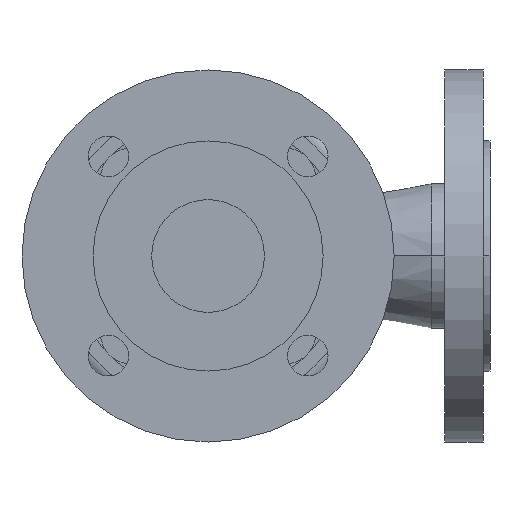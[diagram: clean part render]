
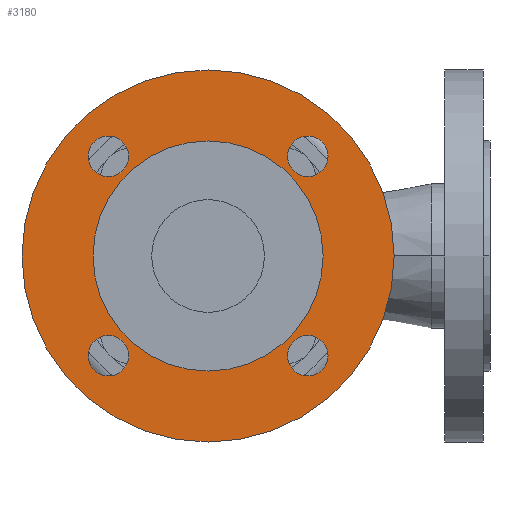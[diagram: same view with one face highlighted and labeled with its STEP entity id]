
A CAD part, front view. The second image highlights one B-rep face of the part: STEP entity #3180.
In plain terms, the highlighted planar face has unit normal (0, -1, 0).
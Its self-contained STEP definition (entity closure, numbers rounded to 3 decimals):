
#610=CARTESIAN_POINT('',(51.,3.,0.));
#620=VERTEX_POINT('',#610);
#650=CARTESIAN_POINT('',(0.,3.,0.));
#660=DIRECTION('',(0.,-1.,0.));
#670=DIRECTION('',(-1.,0.,0.));
#680=AXIS2_PLACEMENT_3D('',#650,#660,#670);
#690=CIRCLE('',#680,51.);
#700=CARTESIAN_POINT('',(-51.,3.,0.));
#710=VERTEX_POINT('',#700);
#720=EDGE_CURVE('',#710,#620,#690,.T.);
#2330=CARTESIAN_POINT('',(0.,3.,0.));
#2340=DIRECTION('',(0.,1.,0.));
#2350=DIRECTION('',(0.,0.,1.));
#2360=AXIS2_PLACEMENT_3D('',#2330,#2340,#2350);
#2370=PLANE('',#2360);
#2380=CARTESIAN_POINT('',(-44.194,3.,-44.194));
#2390=DIRECTION('',(0.,1.,0.));
#2400=DIRECTION('',(1.,0.,0.));
#2410=AXIS2_PLACEMENT_3D('',#2380,#2390,#2400);
#2420=CIRCLE('',#2410,9.);
#2430=CARTESIAN_POINT('',(-35.194,3.,-44.194));
#2440=VERTEX_POINT('',#2430);
#2450=CARTESIAN_POINT('',(-53.194,3.,-44.194));
#2460=VERTEX_POINT('',#2450);
#2470=EDGE_CURVE('',#2440,#2460,#2420,.T.);
#2480=ORIENTED_EDGE('',*,*,#2470,.T.);
#2490=EDGE_CURVE('',#2460,#2440,#2420,.T.);
#2500=ORIENTED_EDGE('',*,*,#2490,.T.);
#2510=EDGE_LOOP('',(#2500,#2480));
#2520=FACE_BOUND('',#2510,.T.);
#2530=CARTESIAN_POINT('',(-44.194,3.,44.194));
#2540=DIRECTION('',(0.,1.,0.));
#2550=DIRECTION('',(1.,0.,0.));
#2560=AXIS2_PLACEMENT_3D('',#2530,#2540,#2550);
#2570=CIRCLE('',#2560,9.);
#2580=CARTESIAN_POINT('',(-35.194,3.,44.194));
#2590=VERTEX_POINT('',#2580);
#2600=CARTESIAN_POINT('',(-53.194,3.,44.194));
#2610=VERTEX_POINT('',#2600);
#2620=EDGE_CURVE('',#2590,#2610,#2570,.T.);
#2630=ORIENTED_EDGE('',*,*,#2620,.T.);
#2640=EDGE_CURVE('',#2610,#2590,#2570,.T.);
#2650=ORIENTED_EDGE('',*,*,#2640,.T.);
#2660=EDGE_LOOP('',(#2650,#2630));
#2670=FACE_BOUND('',#2660,.T.);
#2680=CARTESIAN_POINT('',(44.194,3.,44.194));
#2690=DIRECTION('',(0.,1.,0.));
#2700=DIRECTION('',(1.,0.,0.));
#2710=AXIS2_PLACEMENT_3D('',#2680,#2690,#2700);
#2720=CIRCLE('',#2710,9.);
#2730=CARTESIAN_POINT('',(35.194,3.,44.194));
#2740=VERTEX_POINT('',#2730);
#2750=CARTESIAN_POINT('',(53.194,3.,44.194));
#2760=VERTEX_POINT('',#2750);
#2770=EDGE_CURVE('',#2740,#2760,#2720,.T.);
#2780=ORIENTED_EDGE('',*,*,#2770,.T.);
#2790=EDGE_CURVE('',#2760,#2740,#2720,.T.);
#2800=ORIENTED_EDGE('',*,*,#2790,.T.);
#2810=EDGE_LOOP('',(#2800,#2780));
#2820=FACE_BOUND('',#2810,.T.);
#2830=CARTESIAN_POINT('',(44.194,3.,-44.194));
#2840=DIRECTION('',(0.,1.,0.));
#2850=DIRECTION('',(1.,0.,0.));
#2860=AXIS2_PLACEMENT_3D('',#2830,#2840,#2850);
#2870=CIRCLE('',#2860,9.);
#2880=CARTESIAN_POINT('',(53.194,3.,-44.194));
#2890=VERTEX_POINT('',#2880);
#2900=CARTESIAN_POINT('',(35.194,3.,-44.194));
#2910=VERTEX_POINT('',#2900);
#2920=EDGE_CURVE('',#2890,#2910,#2870,.T.);
#2930=ORIENTED_EDGE('',*,*,#2920,.T.);
#2940=EDGE_CURVE('',#2910,#2890,#2870,.T.);
#2950=ORIENTED_EDGE('',*,*,#2940,.T.);
#2960=EDGE_LOOP('',(#2950,#2930));
#2970=FACE_BOUND('',#2960,.T.);
#2980=CARTESIAN_POINT('',(0.,3.,0.));
#2990=DIRECTION('',(0.,1.,0.));
#3000=DIRECTION('',(1.,0.,0.));
#3010=AXIS2_PLACEMENT_3D('',#2980,#2990,#3000);
#3020=CIRCLE('',#3010,82.5);
#3030=CARTESIAN_POINT('',(-82.5,3.,0.));
#3040=VERTEX_POINT('',#3030);
#3050=CARTESIAN_POINT('',(82.5,3.,0.));
#3060=VERTEX_POINT('',#3050);
#3070=EDGE_CURVE('',#3040,#3060,#3020,.T.);
#3080=ORIENTED_EDGE('',*,*,#3070,.F.);
#3090=EDGE_CURVE('',#3060,#3040,#3020,.T.);
#3100=ORIENTED_EDGE('',*,*,#3090,.F.);
#3110=EDGE_LOOP('',(#3100,#3080));
#3120=FACE_OUTER_BOUND('',#3110,.T.);
#3130=EDGE_CURVE('',#620,#710,#690,.T.);
#3140=ORIENTED_EDGE('',*,*,#3130,.F.);
#3150=ORIENTED_EDGE('',*,*,#720,.F.);
#3160=EDGE_LOOP('',(#3150,#3140));
#3170=FACE_BOUND('',#3160,.T.);
#3180=ADVANCED_FACE('',(#2520,#2670,#2820,#2970,#3120,#3170),#2370,.F.);
